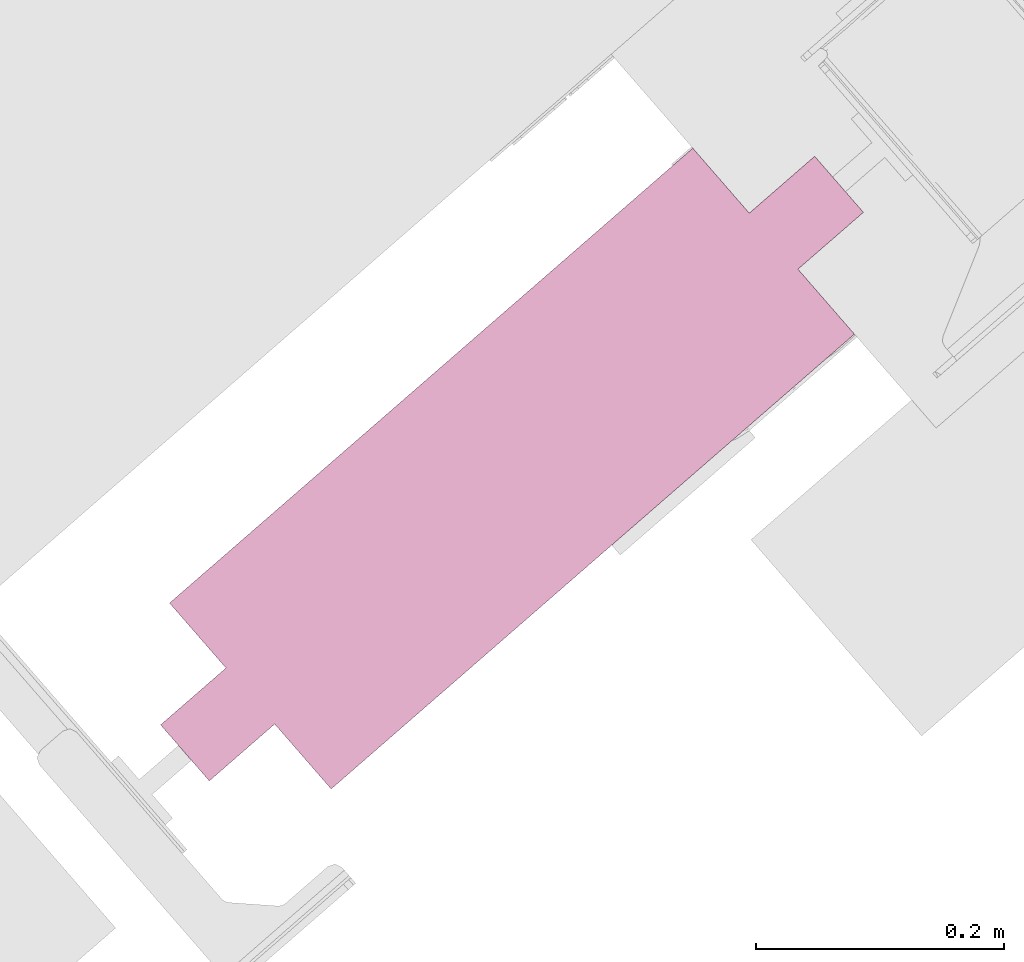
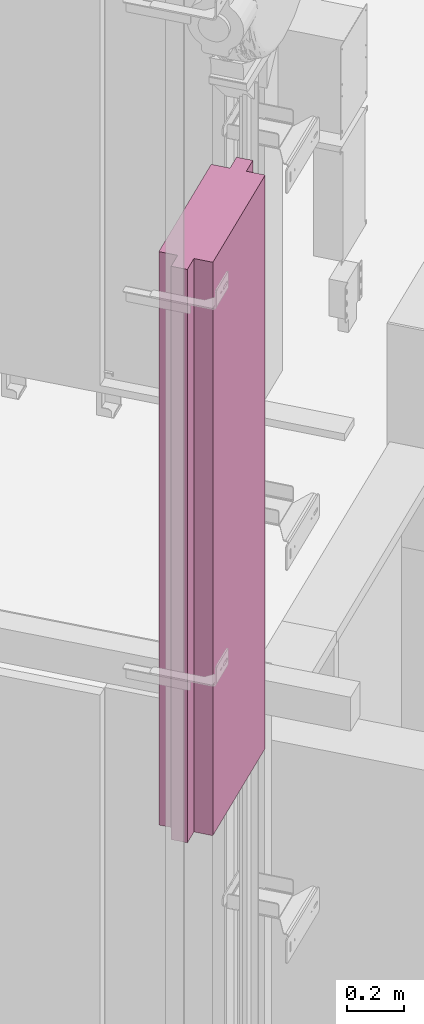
# One storey, part 119 of 124: 1 transport element.
"""IFC2X3 building model written with IfcOpenShell, lengths in millimetres."""

from ifc_helpers import new_model, entity, si_unit, converted_unit, derived_unit, money_unit, direction, frame, origin_with_axes, place, context, subcontext, project, spatial, faceted_brep, material, type_object, element, save


model = new_model("IFC2X3")

# Units and contexts
model_context = context("Model", 3, precision=1e-05, world=origin_with_axes(), true_north=direction((0.0, 1.0)))
body_context = subcontext(model_context, "Body", "Model", "MODEL_VIEW")
ifc_project = project(units=[si_unit("LENGTHUNIT", "METRE", prefix="MILLI"), si_unit("AREAUNIT", "SQUARE_METRE"), si_unit("VOLUMEUNIT", "CUBIC_METRE"), converted_unit("PLANEANGLEUNIT", "DEGREE", entity("IfcPlaneAngleMeasure", 0.0174532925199), si_unit("PLANEANGLEUNIT", "RADIAN"), dimensions=[0, 0, 0, 0, 0, 0, 0]), si_unit("SOLIDANGLEUNIT", "STERADIAN"), money_unit("EUR"), converted_unit("TIMEUNIT", "Year", entity("IfcTimeMeasure", 31556926.0), si_unit("TIMEUNIT", "SECOND"), dimensions=[0, 0, 1, 0, 0, 0, 0]), si_unit("MASSUNIT", "GRAM", prefix="KILO"), si_unit("THERMODYNAMICTEMPERATUREUNIT", "DEGREE_CELSIUS"), si_unit("LUMINOUSINTENSITYUNIT", "LUMEN"), si_unit("ENERGYUNIT", "JOULE", prefix="MEGA"), derived_unit("THERMALCONDUCTANCEUNIT", [(si_unit("POWERUNIT", "WATT"), 1), (si_unit("LENGTHUNIT", "METRE"), -1), (si_unit("THERMODYNAMICTEMPERATUREUNIT", "KELVIN"), -1)]), derived_unit("SPECIFICHEATCAPACITYUNIT", [(si_unit("ENERGYUNIT", "JOULE"), 1), (si_unit("MASSUNIT", "GRAM", prefix="KILO"), -1), (si_unit("THERMODYNAMICTEMPERATUREUNIT", "KELVIN"), -1)]), derived_unit("MASSDENSITYUNIT", [(si_unit("MASSUNIT", "GRAM", prefix="KILO"), 1), (si_unit("VOLUMEUNIT", "CUBIC_METRE"), -1)])], contexts=[model_context])

# Site, building, storey
site_placement = place(None, origin_with_axes())
site = spatial("IfcSite", under=ifc_project, at=site_placement, Name="Site", CompositionType="ELEMENT")
building_placement = place(site_placement, origin_with_axes())
building = spatial("IfcBuilding", under=site, at=building_placement, Name="Building", CompositionType="ELEMENT")
storey_placement = place(building_placement, frame((0.0, 0.0, -1615.0), z_axis=(0.0, 0.0, 1.0), x_axis=(1.0, 0.0, 0.0)))
storey = spatial("IfcBuildingStorey", under=building, at=storey_placement, Name="0  korrus", CompositionType="ELEMENT", Elevation=-1615.0)

# Transport element
ifc_material = material(Name="IFC Building Material")
transport_element_type = type_object("IfcTransportElementType", Name="KONE_CWT:KONE_CWT", PredefinedType="NOTDEFINED")
transport_element_placement = place(storey_placement, frame((147603.012078, 77700.0666884, 6120.0), z_axis=(0.0, 0.0, 1.0), x_axis=(-0.656059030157, 0.754709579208, 0.0)))
element("IfcTransportElement", 1, at=transport_element_placement, inside=storey, type_object=transport_element_type, material=ifc_material, Name="KONE_CWT:KONE_CWT", ObjectType="KONE_CWT", CapacityByNumber=0.0, CapacityByWeight=0.0, OperationType="ELEVATOR", context=body_context, shape_type="Brep", body=[
    faceted_brep([(129.5, 700.0, 0.0), (69.5, 700.0, 0.0), (69.5, 700.0, 2435.0), (129.5, 700.0, 2435.0), (129.5, 630.0, 0.0), (199.0, 630.0, 0.0), (199.0, 70.0, 0.0), (129.5, 70.0, 0.0), (129.5, 0.0, 0.0), (69.5, 0.0, 0.0), (69.5, 70.0, 0.0), (0.0, 70.0, 0.0), (0.0, 630.0, 0.0), (69.5, 630.0, 0.0), (69.5, 630.0, 2435.0), (0.0, 630.0, 2435.0), (0.0, 70.0, 2435.0), (69.5, 70.0, 2435.0), (69.5, 0.0, 2435.0), (129.5, 0.0, 2435.0), (129.5, 70.0, 2435.0), (199.0, 70.0, 2435.0), (199.0, 630.0, 2435.0), (129.5, 630.0, 2435.0)], [[[0, 1, 2, 3]], [[0, 4, 5, 6, 7, 8, 9, 10, 11, 12, 13, 1]], [[1, 13, 14, 2]], [[3, 2, 14, 15, 16, 17, 18, 19, 20, 21, 22, 23]], [[4, 0, 3, 23]], [[5, 4, 23, 22]], [[6, 5, 22, 21]], [[7, 6, 21, 20]], [[8, 7, 20, 19]], [[9, 8, 19, 18]], [[10, 9, 18, 17]], [[11, 10, 17, 16]], [[12, 11, 16, 15]], [[13, 12, 15, 14]]]),
])

save(model, "model.ifc")
